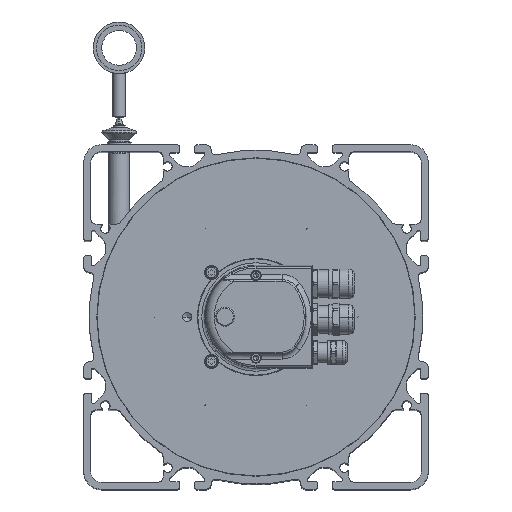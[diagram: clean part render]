
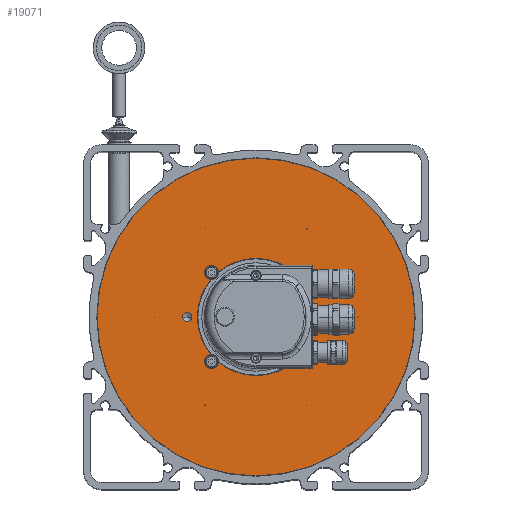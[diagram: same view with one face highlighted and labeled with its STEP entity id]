
A CAD part, top view. The second image highlights one B-rep face of the part: STEP entity #19071.
In plain terms, the highlighted planar face has unit normal (0, 0, 1) as drawn and (1, 0, 0) by its records, which use the part's own axes.
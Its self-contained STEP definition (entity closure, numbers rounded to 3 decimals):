
#17600=CARTESIAN_POINT('',(8.,0.,0.));
#17601=DIRECTION('',(-1.,0.,0.));
#17602=DIRECTION('',(0.,1.,0.));
#17603=AXIS2_PLACEMENT_3D('',#17600,#17601,#17602);
#17608=CARTESIAN_POINT('',(8.,0.,0.));
#17609=DIRECTION('',(1.,0.,0.));
#17610=DIRECTION('',(0.,1.,0.));
#17611=AXIS2_PLACEMENT_3D('',#17608,#17609,#17610);
#17616=CARTESIAN_POINT('',(8.,-25.809,-25.809));
#17617=DIRECTION('',(1.,0.,0.));
#17618=DIRECTION('',(0.,-1.,0.));
#17619=AXIS2_PLACEMENT_3D('',#17616,#17617,#17618);
#17624=CARTESIAN_POINT('',(8.,-25.809,-25.809));
#17625=DIRECTION('',(1.,0.,0.));
#17626=DIRECTION('',(0.,1.,0.));
#17627=AXIS2_PLACEMENT_3D('',#17624,#17625,#17626);
#17632=CARTESIAN_POINT('',(8.,-25.809,25.809));
#17633=DIRECTION('',(1.,0.,0.));
#17634=DIRECTION('',(0.,0.,1.));
#17635=AXIS2_PLACEMENT_3D('',#17632,#17633,#17634);
#17640=CARTESIAN_POINT('',(8.,-25.809,25.809));
#17641=DIRECTION('',(1.,0.,0.));
#17642=DIRECTION('',(0.,0.,-1.));
#17643=AXIS2_PLACEMENT_3D('',#17640,#17641,#17642);
#17648=CARTESIAN_POINT('',(8.,25.809,25.809));
#17649=DIRECTION('',(1.,0.,0.));
#17650=DIRECTION('',(0.,1.,0.));
#17651=AXIS2_PLACEMENT_3D('',#17648,#17649,#17650);
#17656=CARTESIAN_POINT('',(8.,25.809,25.809));
#17657=DIRECTION('',(1.,0.,0.));
#17658=DIRECTION('',(0.,-1.,0.));
#17659=AXIS2_PLACEMENT_3D('',#17656,#17657,#17658);
#17664=CARTESIAN_POINT('',(8.,25.809,-25.809));
#17665=DIRECTION('',(1.,0.,0.));
#17666=DIRECTION('',(0.,0.,-1.));
#17667=AXIS2_PLACEMENT_3D('',#17664,#17665,#17666);
#17672=CARTESIAN_POINT('',(8.,25.809,-25.809));
#17673=DIRECTION('',(1.,0.,0.));
#17674=DIRECTION('',(0.,0.,1.));
#17675=AXIS2_PLACEMENT_3D('',#17672,#17673,#17674);
#17680=CARTESIAN_POINT('',(8.,40.,0.));
#17681=DIRECTION('',(1.,0.,0.));
#17682=DIRECTION('',(0.,-1.,0.));
#17683=AXIS2_PLACEMENT_3D('',#17680,#17681,#17682);
#17688=CARTESIAN_POINT('',(8.,40.,0.));
#17689=DIRECTION('',(1.,0.,0.));
#17690=DIRECTION('',(0.,1.,0.));
#17691=AXIS2_PLACEMENT_3D('',#17688,#17689,#17690);
#17696=CARTESIAN_POINT('',(8.,-40.,0.));
#17697=DIRECTION('',(1.,0.,0.));
#17698=DIRECTION('',(0.,1.,0.));
#17699=AXIS2_PLACEMENT_3D('',#17696,#17697,#17698);
#17704=CARTESIAN_POINT('',(8.,-40.,0.));
#17705=DIRECTION('',(1.,0.,0.));
#17706=DIRECTION('',(0.,-1.,0.));
#17707=AXIS2_PLACEMENT_3D('',#17704,#17705,#17706);
#17712=CARTESIAN_POINT('',(8.,0.,0.));
#17713=DIRECTION('',(-1.,0.,0.));
#17714=DIRECTION('',(0.,1.,0.));
#17715=AXIS2_PLACEMENT_3D('',#17712,#17713,#17714);
#17720=CARTESIAN_POINT('',(8.,0.,0.));
#17721=DIRECTION('',(-1.,0.,0.));
#17722=DIRECTION('',(0.,-1.,0.));
#17723=AXIS2_PLACEMENT_3D('',#17720,#17721,#17722);
#18666=CARTESIAN_POINT('',(8.,34.02,0.));
#18667=CARTESIAN_POINT('',(8.,-34.02,0.));
#18668=VERTEX_POINT('',#18666);
#18669=VERTEX_POINT('',#18667);
#18716=CARTESIAN_POINT('',(8.,37.35,0.));
#18717=CARTESIAN_POINT('',(8.,42.65,0.));
#18718=VERTEX_POINT('',#18716);
#18719=VERTEX_POINT('',#18717);
#18726=CARTESIAN_POINT('',(8.,-37.35,0.));
#18727=CARTESIAN_POINT('',(8.,-42.65,0.));
#18728=VERTEX_POINT('',#18726);
#18729=VERTEX_POINT('',#18727);
#18790=CARTESIAN_POINT('',(8.,-28.159,-25.809));
#18791=CARTESIAN_POINT('',(8.,-23.459,-25.809));
#18792=VERTEX_POINT('',#18790);
#18793=VERTEX_POINT('',#18791);
#18794=CARTESIAN_POINT('',(8.,-25.809,28.159));
#18795=CARTESIAN_POINT('',(8.,-25.809,23.459));
#18796=VERTEX_POINT('',#18794);
#18797=VERTEX_POINT('',#18795);
#18798=CARTESIAN_POINT('',(8.,28.159,25.809));
#18799=CARTESIAN_POINT('',(8.,23.459,25.809));
#18800=VERTEX_POINT('',#18798);
#18801=VERTEX_POINT('',#18799);
#18802=CARTESIAN_POINT('',(8.,25.809,-28.159));
#18803=CARTESIAN_POINT('',(8.,25.809,-23.459));
#18804=VERTEX_POINT('',#18802);
#18805=VERTEX_POINT('',#18803);
#18810=CARTESIAN_POINT('',(8.,92.3,0.));
#18811=CARTESIAN_POINT('',(8.,-92.3,0.));
#18812=VERTEX_POINT('',#18810);
#18813=VERTEX_POINT('',#18811);
#19020=CARTESIAN_POINT('',(8.,0.,0.));
#19021=DIRECTION('',(1.,0.,0.));
#19022=DIRECTION('',(0.,-1.,0.));
#19023=AXIS2_PLACEMENT_3D('',#19020,#19021,#19022);
#19024=PLANE('',#19023);
#19026=ORIENTED_EDGE('',*,*,#19025,.T.);
#19028=ORIENTED_EDGE('',*,*,#19027,.T.);
#19029=EDGE_LOOP('',(#19026,#19028));
#19030=FACE_OUTER_BOUND('',#19029,.F.);
#19032=ORIENTED_EDGE('',*,*,#19031,.T.);
#19034=ORIENTED_EDGE('',*,*,#19033,.T.);
#19035=EDGE_LOOP('',(#19032,#19034));
#19036=FACE_BOUND('',#19035,.F.);
#19038=ORIENTED_EDGE('',*,*,#19037,.T.);
#19040=ORIENTED_EDGE('',*,*,#19039,.T.);
#19041=EDGE_LOOP('',(#19038,#19040));
#19042=FACE_BOUND('',#19041,.F.);
#19044=ORIENTED_EDGE('',*,*,#19043,.T.);
#19046=ORIENTED_EDGE('',*,*,#19045,.T.);
#19047=EDGE_LOOP('',(#19044,#19046));
#19048=FACE_BOUND('',#19047,.F.);
#19050=ORIENTED_EDGE('',*,*,#19049,.T.);
#19052=ORIENTED_EDGE('',*,*,#19051,.T.);
#19053=EDGE_LOOP('',(#19050,#19052));
#19054=FACE_BOUND('',#19053,.F.);
#19056=ORIENTED_EDGE('',*,*,#19055,.T.);
#19058=ORIENTED_EDGE('',*,*,#19057,.T.);
#19059=EDGE_LOOP('',(#19056,#19058));
#19060=FACE_BOUND('',#19059,.F.);
#19062=ORIENTED_EDGE('',*,*,#19061,.T.);
#19064=ORIENTED_EDGE('',*,*,#19063,.T.);
#19065=EDGE_LOOP('',(#19062,#19064));
#19066=FACE_BOUND('',#19065,.F.);
#19067=ORIENTED_EDGE('',*,*,#18988,.F.);
#19068=ORIENTED_EDGE('',*,*,#18966,.T.);
#19069=EDGE_LOOP('',(#19067,#19068));
#19070=FACE_BOUND('',#19069,.F.);
#17604=CIRCLE('',#17603,34.02);
#17612=CIRCLE('',#17611,34.02);
#17620=CIRCLE('',#17619,2.35);
#17628=CIRCLE('',#17627,2.35);
#17636=CIRCLE('',#17635,2.35);
#17644=CIRCLE('',#17643,2.35);
#17652=CIRCLE('',#17651,2.35);
#17660=CIRCLE('',#17659,2.35);
#17668=CIRCLE('',#17667,2.35);
#17676=CIRCLE('',#17675,2.35);
#17684=CIRCLE('',#17683,2.65);
#17692=CIRCLE('',#17691,2.65);
#17700=CIRCLE('',#17699,2.65);
#17708=CIRCLE('',#17707,2.65);
#17716=CIRCLE('',#17715,92.3);
#17724=CIRCLE('',#17723,92.3);
#18966=EDGE_CURVE('',#18668,#18669,#17612,.T.);
#18988=EDGE_CURVE('',#18668,#18669,#17604,.T.);
#19025=EDGE_CURVE('',#18812,#18813,#17716,.T.);
#19027=EDGE_CURVE('',#18813,#18812,#17724,.T.);
#19031=EDGE_CURVE('',#18792,#18793,#17620,.T.);
#19033=EDGE_CURVE('',#18793,#18792,#17628,.T.);
#19037=EDGE_CURVE('',#18796,#18797,#17636,.T.);
#19039=EDGE_CURVE('',#18797,#18796,#17644,.T.);
#19043=EDGE_CURVE('',#18800,#18801,#17652,.T.);
#19045=EDGE_CURVE('',#18801,#18800,#17660,.T.);
#19049=EDGE_CURVE('',#18804,#18805,#17668,.T.);
#19051=EDGE_CURVE('',#18805,#18804,#17676,.T.);
#19055=EDGE_CURVE('',#18718,#18719,#17684,.T.);
#19057=EDGE_CURVE('',#18719,#18718,#17692,.T.);
#19061=EDGE_CURVE('',#18728,#18729,#17700,.T.);
#19063=EDGE_CURVE('',#18729,#18728,#17708,.T.);
#19071=ADVANCED_FACE('',(#19030,#19036,#19042,#19048,#19054,#19060,#19066,
#19070),#19024,.T.);
